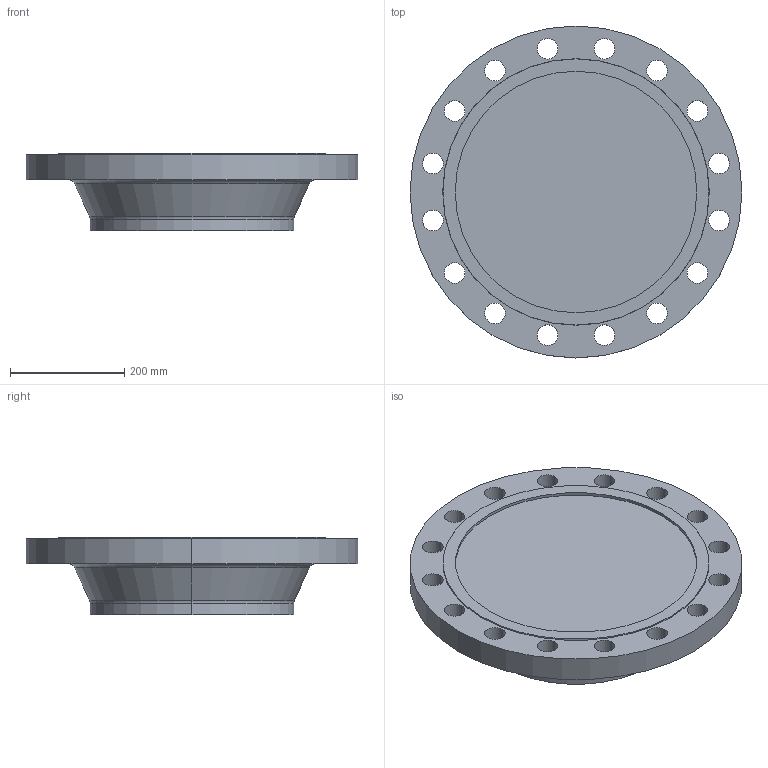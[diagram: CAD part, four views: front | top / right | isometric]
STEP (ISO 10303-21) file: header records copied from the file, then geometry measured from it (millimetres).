
FILE_DESCRIPTION (( 'STEP AP214' ), '1' );
FILE_NAME ('PN40 DN350 Type 21(ii) - Type F Face.STEP', '2019-01-05T21:43:31', ( '' ), ( '' ), 'SwSTEP 2.0', 'SolidWorks 2019', '' );
FILE_SCHEMA (( 'AUTOMOTIVE_DESIGN' ));
Length unit declared in the file: millimetre
Products named in the file (1): PN40 DN350 Type 21(ii) - Type F Face
Bounding box: 580 x 580 x 135 mm (x, y, z)
Volume: 20598187.6 mm3; surface area: 739307.8 mm2
Topology: 1 solids, 1 shells, 51 faces, 132 edges, 86 vertices
Faces by surface type: cylinder 38, plane 5, torus 4, cone 4
Entity records: 1706 total; most frequent: DIRECTION 326, CARTESIAN_POINT 270, ORIENTED_EDGE 264, AXIS2_PLACEMENT_3D 142, EDGE_CURVE 132, CIRCLE 90, VERTEX_POINT 86, EDGE_LOOP 86
